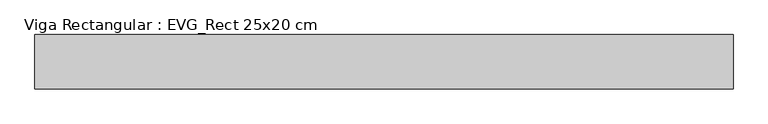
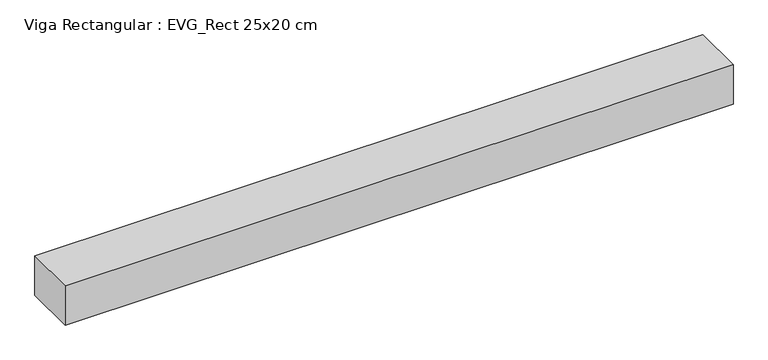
"""IFC4 building model written with IfcOpenShell, lengths in millimetres: beam geometry, Viga Rectangular : EVG_Rect 25x20 cm."""

from ifc_helpers import new_model, si_unit, frame, origin, place, context, project, spatial, polyline, outline, extrude, source, transform, mapped, element, save


def viga_rectangular_evg_rect_25x20_cm_76eb4939(model_context):
    return source(origin(), model_context, "Body", "SweptSolid", [
        extrude(outline(polyline([(1600.0, 125.0), (1600.0, -125.0), (-1600.0, -125.0), (-1600.0, 125.0), (1600.0, 125.0)])), frame((0.0, 0.0, -200.0), z_axis=(0.0, 0.0, 1.0), x_axis=(1.0, 0.0, 0.0)), (0.0, 0.0, 1.0), 200.0),
    ])


if __name__ == "__main__":
    model = new_model("IFC4")
    model_context = context("Model", 3, world=origin())
    ifc_project = project(units=[si_unit("LENGTHUNIT", "METRE", prefix="MILLI")], contexts=[model_context])
    site = spatial("IfcSite", under=ifc_project)
    building = spatial("IfcBuilding", under=site)
    placement = place(None, origin())
    viga_rectangular_evg_rect_25x20_cm_shape = viga_rectangular_evg_rect_25x20_cm_76eb4939(model_context)
    element("IfcBeam", 1, ObjectType="Viga Rectangular : EVG_Rect 25x20 cm", at=placement, inside=building, context=model_context, shape_type="MappedRepresentation", body=[
        mapped(viga_rectangular_evg_rect_25x20_cm_shape, transform((0.0, 0.0, 0.0), x_axis=(1.0, 0.0, 0.0), y_axis=(0.0, 1.0, 0.0), z_axis=(0.0, 0.0, 1.0))),
    ])
    save(model, "model.ifc")
